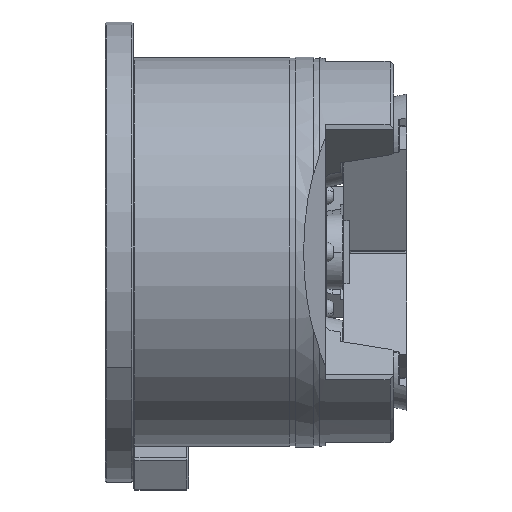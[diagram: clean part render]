
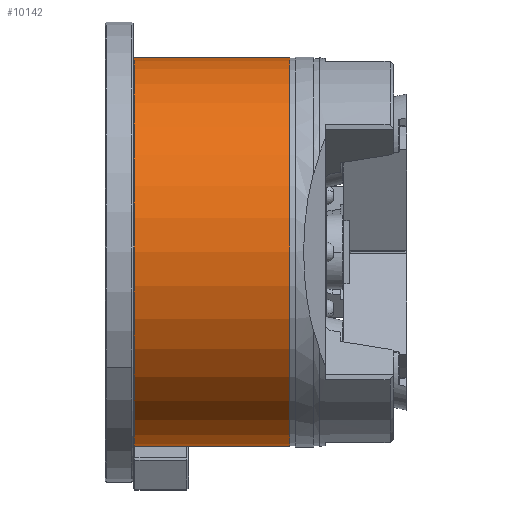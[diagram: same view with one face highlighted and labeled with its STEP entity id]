
A CAD part, front view. The second image highlights one B-rep face of the part: STEP entity #10142.
In plain terms, the highlighted cylindrical face has radius 104.75 mm (diameter 209.5 mm), a partial arc.
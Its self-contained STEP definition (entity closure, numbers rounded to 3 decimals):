
#149 = ORIENTED_EDGE ( 'NONE', *, *, #5425, .T. ) ;
#1251 = ORIENTED_EDGE ( 'NONE', *, *, #45626, .F. ) ;
#2390 = DIRECTION ( 'NONE',  ( 1., 0., 0. ) ) ;
#3089 = DIRECTION ( 'NONE',  ( 0., 0., -1. ) ) ;
#5425 = EDGE_CURVE ( 'NONE', #44283, #19600, #34614, .T. ) ;
#8272 = AXIS2_PLACEMENT_3D ( 'NONE', #32737, #32716, #32671 ) ;
#9207 = DIRECTION ( 'NONE',  ( 0., 0., -1. ) ) ;
#9615 = VECTOR ( 'NONE', #2390, 1000. ) ;
#10142 = ADVANCED_FACE ( 'NONE', ( #30803 ), #17983, .T. ) ;
#10569 = VECTOR ( 'NONE', #35661, 1000. ) ;
#15698 = CARTESIAN_POINT ( 'NONE',  ( 63.843, 0., -104.75 ) ) ;
#17983 = CYLINDRICAL_SURFACE ( 'NONE', #21577, 104.75 ) ;
#18686 = CARTESIAN_POINT ( 'NONE',  ( -18.5, 0., -104.75 ) ) ;
#19543 = ORIENTED_EDGE ( 'NONE', *, *, #28209, .F. ) ;
#19600 = VERTEX_POINT ( 'NONE', #32121 ) ;
#20140 = VERTEX_POINT ( 'NONE', #36859 ) ;
#20990 = LINE ( 'NONE', #15698, #10569 ) ;
#21577 = AXIS2_PLACEMENT_3D ( 'NONE', #40239, #36336, #9207 ) ;
#22383 = CARTESIAN_POINT ( 'NONE',  ( -102.4, 0., 104.75 ) ) ;
#26495 = DIRECTION ( 'NONE',  ( 1., 0., 0. ) ) ;
#27038 = ORIENTED_EDGE ( 'NONE', *, *, #36969, .T. ) ;
#28209 = EDGE_CURVE ( 'NONE', #44283, #20140, #40720, .T. ) ;
#29031 = VERTEX_POINT ( 'NONE', #18686 ) ;
#30199 = EDGE_LOOP ( 'NONE', ( #19543, #149, #27038, #1251 ) ) ;
#30803 = FACE_OUTER_BOUND ( 'NONE', #30199, .T. ) ;
#32121 = CARTESIAN_POINT ( 'NONE',  ( -102.4, 0., -104.75 ) ) ;
#32671 = DIRECTION ( 'NONE',  ( 0., 0., -1. ) ) ;
#32716 = DIRECTION ( 'NONE',  ( 1., 0., 0. ) ) ;
#32737 = CARTESIAN_POINT ( 'NONE',  ( -102.4, 0., 0. ) ) ;
#34046 = AXIS2_PLACEMENT_3D ( 'NONE', #49808, #26495, #3089 ) ;
#34614 = CIRCLE ( 'NONE', #8272, 104.75 ) ;
#35661 = DIRECTION ( 'NONE',  ( 1., 0., 0. ) ) ;
#36336 = DIRECTION ( 'NONE',  ( 1., 0., 0. ) ) ;
#36859 = CARTESIAN_POINT ( 'NONE',  ( -18.5, 0., 104.75 ) ) ;
#36969 = EDGE_CURVE ( 'NONE', #19600, #29031, #20990, .T. ) ;
#40239 = CARTESIAN_POINT ( 'NONE',  ( 63.843, 0., 0. ) ) ;
#40720 = LINE ( 'NONE', #49109, #9615 ) ;
#44283 = VERTEX_POINT ( 'NONE', #22383 ) ;
#45626 = EDGE_CURVE ( 'NONE', #20140, #29031, #49898, .T. ) ;
#49109 = CARTESIAN_POINT ( 'NONE',  ( 63.843, 0., 104.75 ) ) ;
#49808 = CARTESIAN_POINT ( 'NONE',  ( -18.5, 0., 0. ) ) ;
#49898 = CIRCLE ( 'NONE', #34046, 104.75 ) ;
